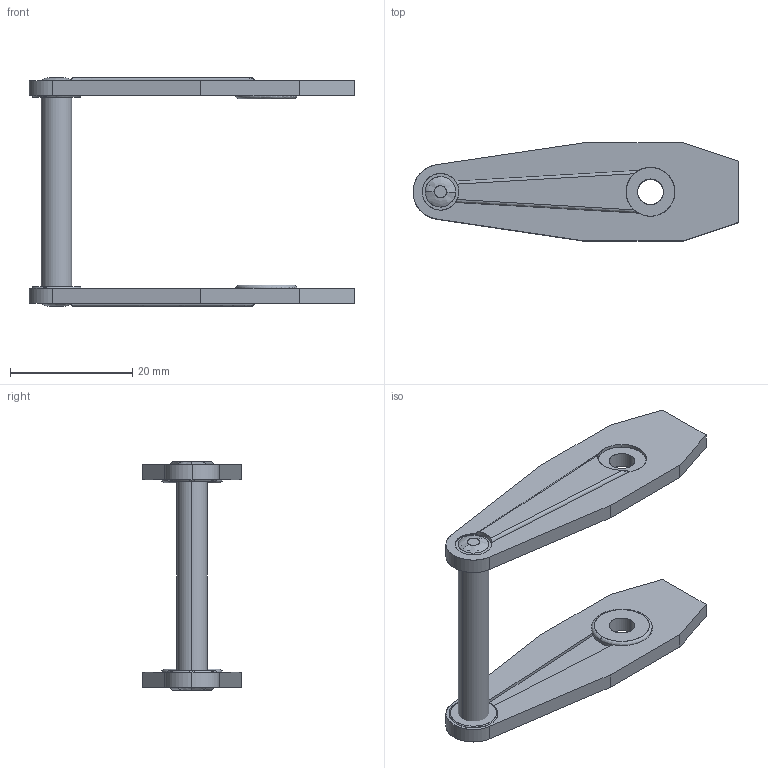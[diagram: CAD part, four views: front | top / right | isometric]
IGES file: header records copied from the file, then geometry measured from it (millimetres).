
Start section: SolidWorks IGES FILE using analytic representation for surfaces
Global section: file name: C:\Documents and Settings\lecoutey\Bureau\GO 71\Assemblage biellettes 47.IGS; native system: SolidWorks 2004 by SolidWorks Corporation; preprocessor: Version 5.3; author: lecoutey; date: 050329.114252; units: millimetre
Bounding box: 53.4 x 16.1 x 37.5 mm (x, y, z)
Surface area: 4263 mm2 (no closed solid volume)
Topology: 0 solids, 0 shells, 88 faces, 1554 edges, 1554 vertices
Faces by surface type: bspline 52, revolution 36
